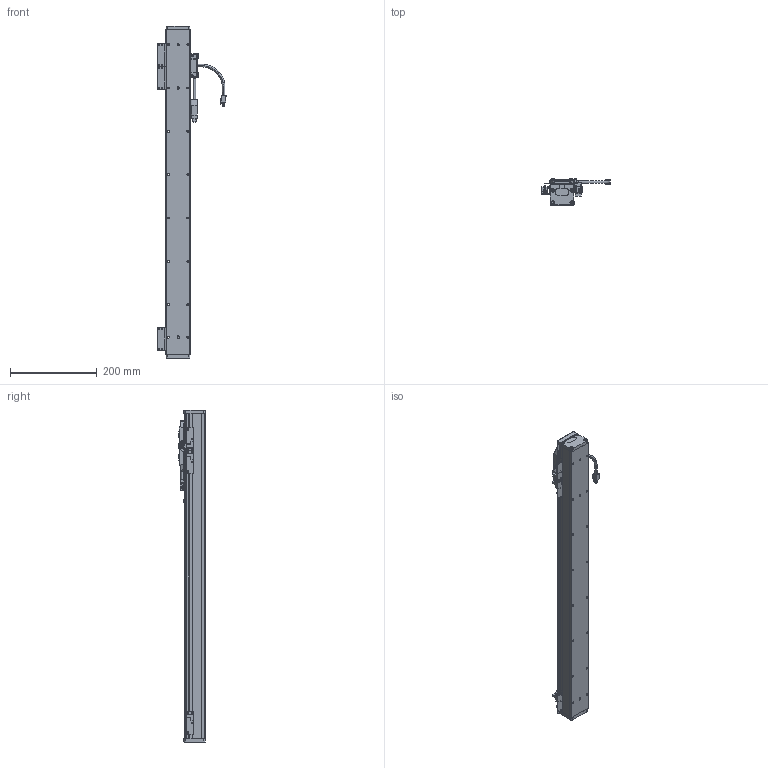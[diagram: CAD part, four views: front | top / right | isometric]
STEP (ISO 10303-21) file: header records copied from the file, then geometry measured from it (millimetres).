
FILE_DESCRIPTION(('Open CASCADE Model'),'2;1');
FILE_NAME('Open CASCADE Shape Model','2025-11-07T00:50:04',('Author'),( 'Open CASCADE'),'Open CASCADE STEP processor 7.6','Open CASCADE 7.6' ,'Unknown');
FILE_SCHEMA(('AUTOMOTIVE_DESIGN { 1 0 10303 214 1 1 1 1 }'));
Length unit declared in the file: millimetre
Products named in the file (25): Open CASCADE STEP translator 7.6 182; Open CASCADE STEP translator 7.6 182.1; Open CASCADE STEP translator 7.6 182.2; Open CASCADE STEP translator 7.6 182.3; Open CASCADE STEP translator 7.6 182.4; Open CASCADE STEP translator 7.6 182.5; Open CASCADE STEP translator 7.6 182.6; Open CASCADE STEP translator 7.6 182.7; Open CASCADE STEP translator 7.6 182.8; Open CASCADE STEP translator 7.6 182.9; Open CASCADE STEP translator 7.6 182.10; Open CASCADE STEP translator 7.6 182.11; Open CASCADE STEP translator 7.6 182.12; Open CASCADE STEP translator 7.6 182.13; Open CASCADE STEP translator 7.6 182.14; Open CASCADE STEP translator 7.6 182.14.1; Open CASCADE STEP translator 7.6 182.14.1.1; Open CASCADE STEP translator 7.6 182.14.1.2; Open CASCADE STEP translator 7.6 182.14.1.3; Open CASCADE STEP translator 7.6 182.14.1.4; Open CASCADE STEP translator 7.6 182.14.1.5; Open CASCADE STEP translator 7.6 182.15; Open CASCADE STEP translator 7.6 182.16; Open CASCADE STEP translator 7.6 182.17; Open CASCADE STEP translator 7.6 182.18
Assembly tree (24 placements, depth 4):
  Open CASCADE STEP translator 7.6 182
    Open CASCADE STEP translator 7.6 182.1
    Open CASCADE STEP translator 7.6 182.2
    Open CASCADE STEP translator 7.6 182.3
    Open CASCADE STEP translator 7.6 182.4
    Open CASCADE STEP translator 7.6 182.5
    Open CASCADE STEP translator 7.6 182.6
    Open CASCADE STEP translator 7.6 182.7
    Open CASCADE STEP translator 7.6 182.8
    Open CASCADE STEP translator 7.6 182.9
    Open CASCADE STEP translator 7.6 182.10
    Open CASCADE STEP translator 7.6 182.11
    Open CASCADE STEP translator 7.6 182.12
    Open CASCADE STEP translator 7.6 182.13
    Open CASCADE STEP translator 7.6 182.14
      Open CASCADE STEP translator 7.6 182.14.1
        Open CASCADE STEP translator 7.6 182.14.1.1
        Open CASCADE STEP translator 7.6 182.14.1.2
        Open CASCADE STEP translator 7.6 182.14.1.3
        Open CASCADE STEP translator 7.6 182.14.1.4
        Open CASCADE STEP translator 7.6 182.14.1.5
    Open CASCADE STEP translator 7.6 182.15
    Open CASCADE STEP translator 7.6 182.16
    Open CASCADE STEP translator 7.6 182.17
    Open CASCADE STEP translator 7.6 182.18
Bounding box: 158 x 60 x 766 mm (x, y, z)
Volume: 2078396.1 mm3; surface area: 281599.9 mm2
Topology: 22 solids, 23 shells, 1889 faces, 4713 edges, 2984 vertices
Faces by surface type: plane 981, cylinder 696, bspline 112, cone 84, torus 16
Entity records: 144518 total; most frequent: CARTESIAN_POINT 51911, DIRECTION 16950, LINE 10399, VECTOR 10399, ORIENTED_EDGE 9292, PCURVE 9292, DEFINITIONAL_REPRESENTATION 9292, EDGE_CURVE 4646
